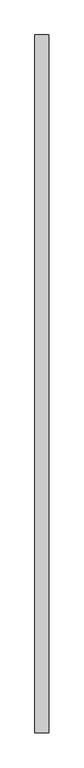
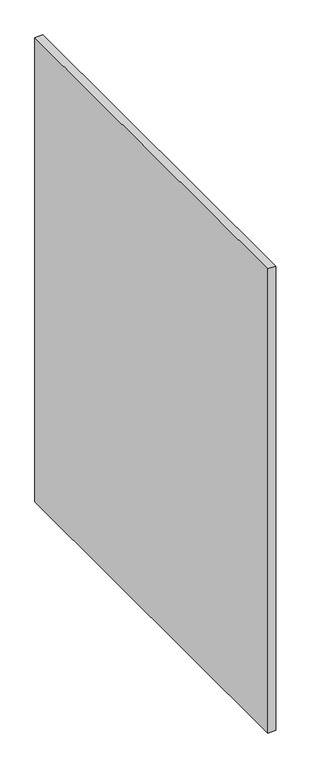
"""IFC4 building model written with IfcOpenShell, lengths in millimetres: furniture geometry, Divisoria_Lateral Fechada : Divisoria_Lateral Fechada_130x180."""

from ifc_helpers import new_model, si_unit, frame, origin, place, context, project, spatial, polyline, outline, extrude, source, transform, mapped, element, save


def furniture_0258e0ed(model_context):
    return source(origin(), model_context, "Body", "SweptSolid", [
        extrude(outline(polyline([(59.7003264, 50.0), (59.7003264, -1470.072222), (29.7003264, -1470.072222), (29.7003264, 50.0), (59.7003264, 50.0)])), frame((0.0, 0.0, 50.0), z_axis=(0.0, 0.0, 1.0), x_axis=(1.0, 0.0, 0.0)), (0.0, 0.0, 1.0), 1850.0),
    ])


if __name__ == "__main__":
    model = new_model("IFC4")
    model_context = context("Model", 3, world=origin())
    ifc_project = project(units=[si_unit("LENGTHUNIT", "METRE", prefix="MILLI")], contexts=[model_context])
    site = spatial("IfcSite", under=ifc_project)
    building = spatial("IfcBuilding", under=site)
    placement = place(None, origin())
    furniture_shape = furniture_0258e0ed(model_context)
    element("IfcFurniture", 1, ObjectType="Divisoria_Lateral Fechada : Divisoria_Lateral Fechada_130x180", at=placement, inside=building, context=model_context, shape_type="MappedRepresentation", body=[
        mapped(furniture_shape, transform((0.0, 0.0, 0.0), x_axis=(1.0, 0.0, 0.0), y_axis=(0.0, 1.0, 0.0), z_axis=(0.0, 0.0, 1.0))),
    ])
    save(model, "model.ifc")
